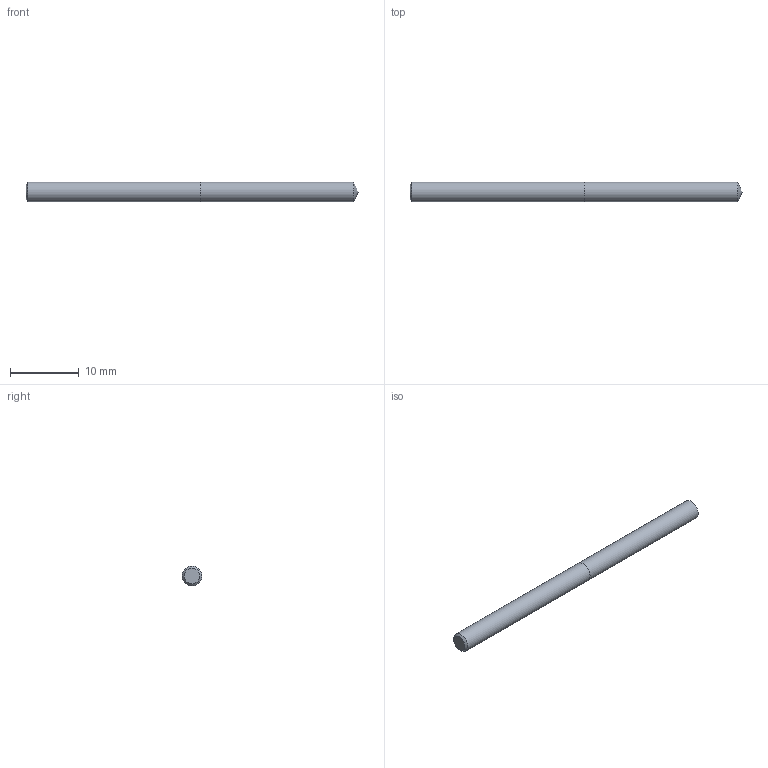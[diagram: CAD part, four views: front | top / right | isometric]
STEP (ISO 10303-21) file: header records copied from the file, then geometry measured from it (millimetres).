
FILE_DESCRIPTION (( 'STEP AP214' ), '1' );
FILE_NAME ('03-2375.STEP', '2022-06-03T06:55:21', ( 'USER' ), ( '' ), 'SwSTEP 2.0', 'SolidWorks 2018', '' );
FILE_SCHEMA (( 'AUTOMOTIVE_DESIGN' ));
Length unit declared in the file: inch
Products named in the file (1): 03-2375
Bounding box: 48.22 x 2.87 x 2.87 mm (x, y, z)
Volume: 309.1 mm3; surface area: 454.2 mm2
Topology: 2 solids, 2 shells, 7 faces, 11 edges, 7 vertices
Faces by surface type: plane 3, cylinder 2, cone 2
Full cylindrical faces by diameter (mm): 2.87 x2
Entity records: 214 total; most frequent: DIRECTION 26, CARTESIAN_POINT 18, AXIS2_PLACEMENT_3D 13, EDGE_LOOP 10, ORIENTED_EDGE 10, FACE_OUTER_BOUND 9, DIMENSIONAL_EXPONENTS 7, ADVANCED_FACE 7
